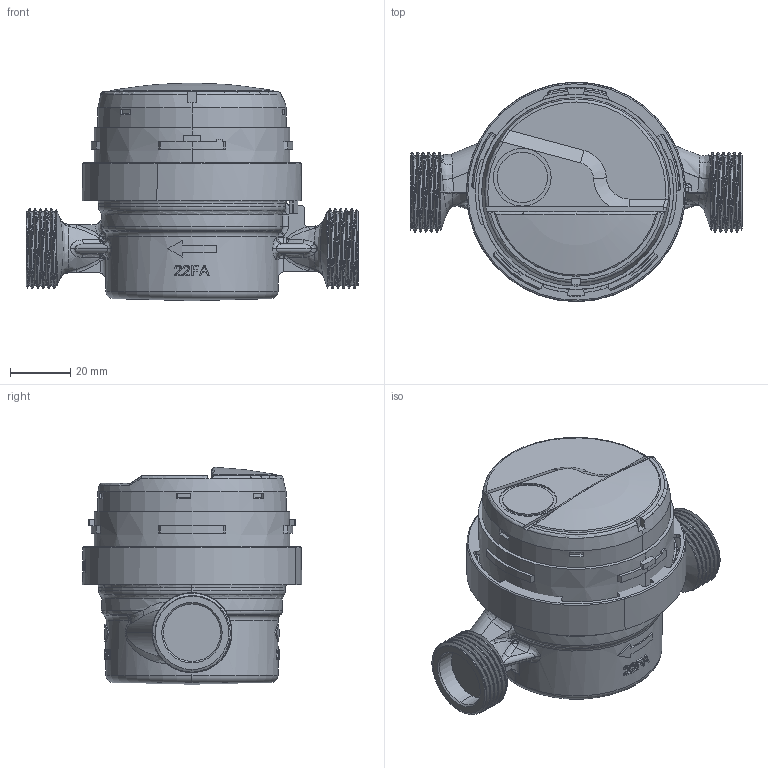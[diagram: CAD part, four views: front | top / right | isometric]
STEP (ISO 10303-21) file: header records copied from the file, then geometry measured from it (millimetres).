
FILE_DESCRIPTION (( 'STEP AP214' ), '1' );
FILE_NAME ('JS90-2,5-07.STEP', '2025-06-06T07:55:32', ( '' ), ( '' ), 'SwSTEP 2.0', 'SolidWorks 2019', '' );
FILE_SCHEMA (( 'AUTOMOTIVE_DESIGN' ));
Length unit declared in the file: millimetre
Products named in the file (9): 9060-000022.STEP; JS90-2,5-07; JS90-2,5-07.STEP; Assembly-1108.STEP; 9004-750202_zagi_ta.STEP; Liczyd_o.STEP; js2,5.STEP; szklanka.STEP; 9004-750201.STEP
Assembly tree (8 placements, depth 4):
  JS90-2,5-07
    JS90-2,5-07.STEP
      Assembly-1108.STEP
        9004-750201.STEP
        9004-750202_zagi_ta.STEP
      js2,5.STEP
      Liczyd_o.STEP
      szklanka.STEP
      9060-000022.STEP
Bounding box: 110 x 72.71 x 72.04 mm (x, y, z)
Volume: 206533.6 mm3; surface area: 62439.7 mm2
Topology: 6 solids, 15 shells, 1934 faces, 5475 edges, 3609 vertices
Faces by surface type: plane 777, bspline 511, cylinder 429, cone 139, torus 64, sphere 14
Entity records: 123628 total; most frequent: CARTESIAN_POINT 70638, ORIENTED_EDGE 10892, DIRECTION 7719, EDGE_CURVE 5446, VERTEX_POINT 3609, AXIS2_PLACEMENT_3D 2867, EDGE_LOOP 2089, VECTOR 1985
